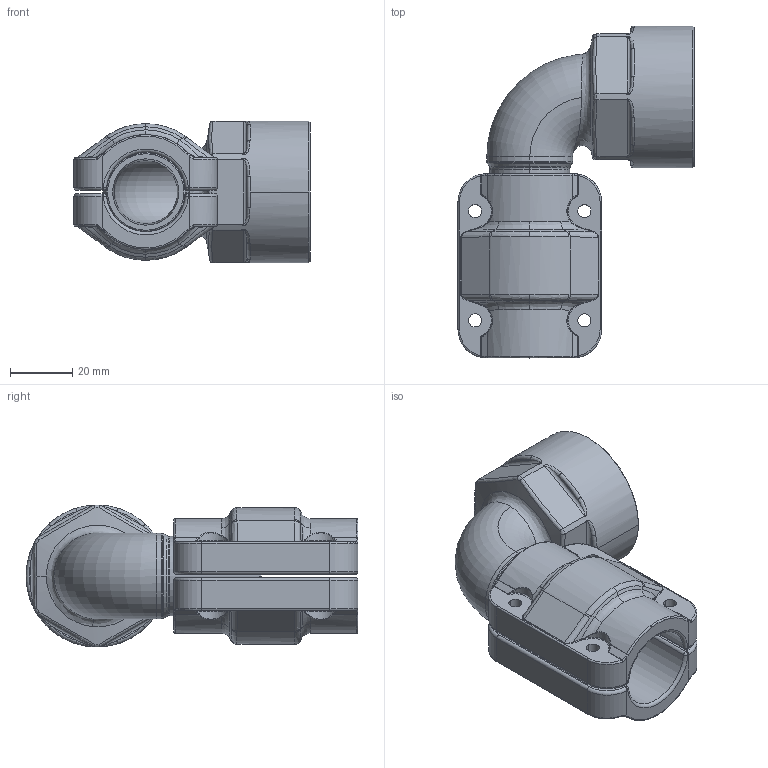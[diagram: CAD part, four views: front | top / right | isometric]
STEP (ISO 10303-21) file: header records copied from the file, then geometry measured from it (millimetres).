
FILE_DESCRIPTION((''),'2;1');
FILE_NAME('AU15221399_ASM','2017-05-12T',('Administrator'),(''),'PRO/ENGINEER BY PARAMETRIC TECHNOLOGY CORPORATION, 2009360','PRO/ENGINEER BY PARAMETRIC TECHNOLOGY CORPORATION, 2009360','');
FILE_SCHEMA(('AUTOMOTIVE_DESIGN_CC2 { 1 2 10303 214 -1 1 5 2 }'));
Length unit declared in the file: millimetre
Products named in the file (5): 2015_2213_00_00; 201520020000_23; 201520020001_10; 2015200200_ASM; AU15221399_ASM
Assembly tree (4 placements, depth 3):
  AU15221399_ASM
    2015_2213_00_00
    2015200200_ASM
      201520020000_23
      201520020001_10
Bounding box: 75.62 x 106.34 x 45.43 mm (x, y, z)
Volume: 94344.1 mm3; surface area: 36525.4 mm2
Topology: 3 solids, 3 shells, 405 faces, 956 edges, 558 vertices
Faces by surface type: bspline 164, cylinder 110, torus 68, plane 43, cone 12, sphere 8
Entity records: 22451 total; most frequent: CARTESIAN_POINT 11412, ORIENTED_EDGE 1912, DIRECTION 1364, PRESENTATION_STYLE_ASSIGNMENT 959, STYLED_ITEM 959, CURVE_STYLE 956, EDGE_CURVE 956, AXIS2_PLACEMENT_3D 584
